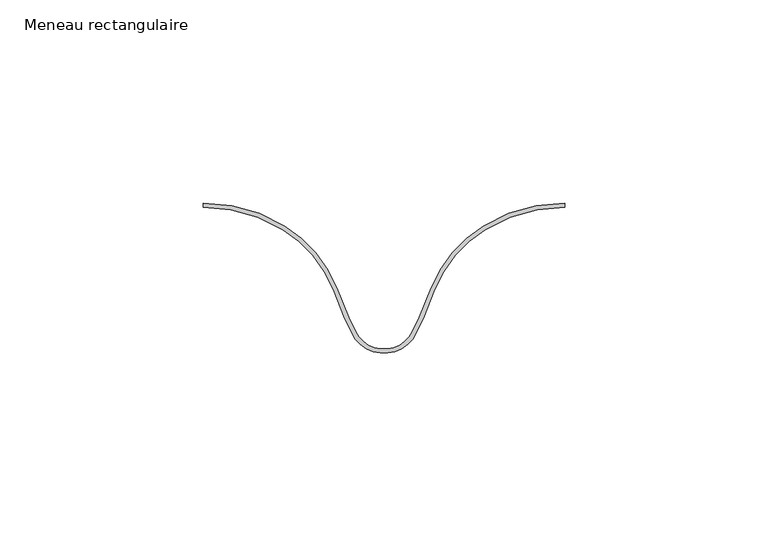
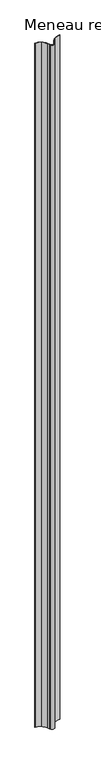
"""IFC4 building model written with IfcOpenShell, lengths in millimetres: member geometry, Meneau rectangulaire : Regolare 800."""

from ifc_helpers import new_model, si_unit, point, frame, frame_2d, origin, place, context, project, spatial, polyline, circle_curve, trimmed, segment, composite_curve, outline, extrude, source, transform, mapped, element, save


def meneau_rectangulaire_c6909a84(model_context):
    return source(origin(), model_context, "Body", "SweptSolid", [
        extrude(outline(composite_curve([segment(trimmed(circle_curve(frame_2d((40.9600993, 4.3198001)), 30.6166783), [point((24.9849944, 30.4383187))], [point((12.5330095, 15.6900047))], True, "CARTESIAN"), True, "CONTINUOUS"), segment(polyline([(12.5330095, 15.6900047), (9.6514235, 8.4956098), (7.9907988, 5.0311277)]), True, "CONTINUOUS"), segment(trimmed(circle_curve(frame_2d((0.0, 8.8613445)), 8.8613445), [point((7.9907988, 5.0311277))], [point((-7.9907988, 5.0311277))], False, "CARTESIAN"), True, "CONTINUOUS"), segment(polyline([(-7.9907988, 5.0311277), (-9.6514235, 8.4956098), (-12.5330095, 15.6900047)]), True, "CONTINUOUS"), segment(trimmed(circle_curve(frame_2d((-40.9600993, 4.3198001)), 30.6166783), [point((-12.5330095, 15.6900047))], [point((-24.9849944, 30.4383187))], True, "CARTESIAN"), True, "CONTINUOUS"), segment(trimmed(circle_curve(frame_2d((-44.5257445, -1.5098563)), 37.4503244), [point((-24.9849944, 30.4383187))], [point((-44.5257445, 35.9404682))], True, "CARTESIAN"), True, "CONTINUOUS"), segment(polyline([(-44.5257445, 35.9404682), (-44.5257445, 36.9404682)]), True, "CONTINUOUS"), segment(trimmed(circle_curve(frame_2d((-44.5257445, -1.5098563)), 38.4503244), [point((-44.5257445, 36.9404682))], [point((-24.4632165, 31.2914001))], False, "CARTESIAN"), True, "CONTINUOUS"), segment(trimmed(circle_curve(frame_2d((-40.9600993, 4.3198001)), 31.6166783), [point((-24.4632165, 31.2914001))], [point((-11.6046151, 16.0616012))], False, "CARTESIAN"), True, "CONTINUOUS"), segment(polyline([(-11.6046151, 16.0616012), (-8.7353934, 8.8980757), (-7.0890396, 5.4633665)]), True, "CONTINUOUS"), segment(trimmed(circle_curve(frame_2d((0.0, 8.8613445)), 7.8613445), [point((-7.0890396, 5.4633665))], [point((7.0890396, 5.4633665))], True, "CARTESIAN"), True, "CONTINUOUS"), segment(polyline([(7.0890396, 5.4633665), (8.7353934, 8.8980757), (11.6046151, 16.0616012)]), True, "CONTINUOUS"), segment(trimmed(circle_curve(frame_2d((40.9600993, 4.3198001)), 31.6166783), [point((11.6046151, 16.0616012))], [point((24.4632165, 31.2914001))], False, "CARTESIAN"), True, "CONTINUOUS"), segment(trimmed(circle_curve(frame_2d((44.5257445, -1.5098563)), 38.4503244), [point((24.4632165, 31.2914001))], [point((44.5257445, 36.9404682))], False, "CARTESIAN"), True, "CONTINUOUS"), segment(polyline([(44.5257445, 36.9404682), (44.5257445, 35.9404682)]), True, "CONTINUOUS"), segment(trimmed(circle_curve(frame_2d((44.5257445, -1.5098563)), 37.4503244), [point((44.5257445, 35.9404682))], [point((24.9849944, 30.4383187))], True, "CARTESIAN"), True, "CONTINUOUS")], self_intersect=False)), frame((0.0, 0.0, -2588.190451), z_axis=(0.0, 0.0, 1.0), x_axis=(1.0, 0.0, 0.0)), (0.0, 0.0, 1.0), 2588.190451),
    ])


if __name__ == "__main__":
    model = new_model("IFC4")
    model_context = context("Model", 3, world=origin())
    ifc_project = project(units=[si_unit("LENGTHUNIT", "METRE", prefix="MILLI")], contexts=[model_context])
    site = spatial("IfcSite", under=ifc_project)
    building = spatial("IfcBuilding", under=site)
    placement = place(None, origin())
    meneau_rectangulaire_shape = meneau_rectangulaire_c6909a84(model_context)
    element("IfcMember", 1, ObjectType="Meneau rectangulaire : Regolare 800", at=placement, inside=building, context=model_context, shape_type="MappedRepresentation", body=[
        mapped(meneau_rectangulaire_shape, transform((0.0, 0.0, 0.0), x_axis=(1.0, 0.0, 0.0), y_axis=(0.0, 1.0, 0.0), z_axis=(0.0, 0.0, 1.0))),
    ])
    save(model, "model.ifc")
